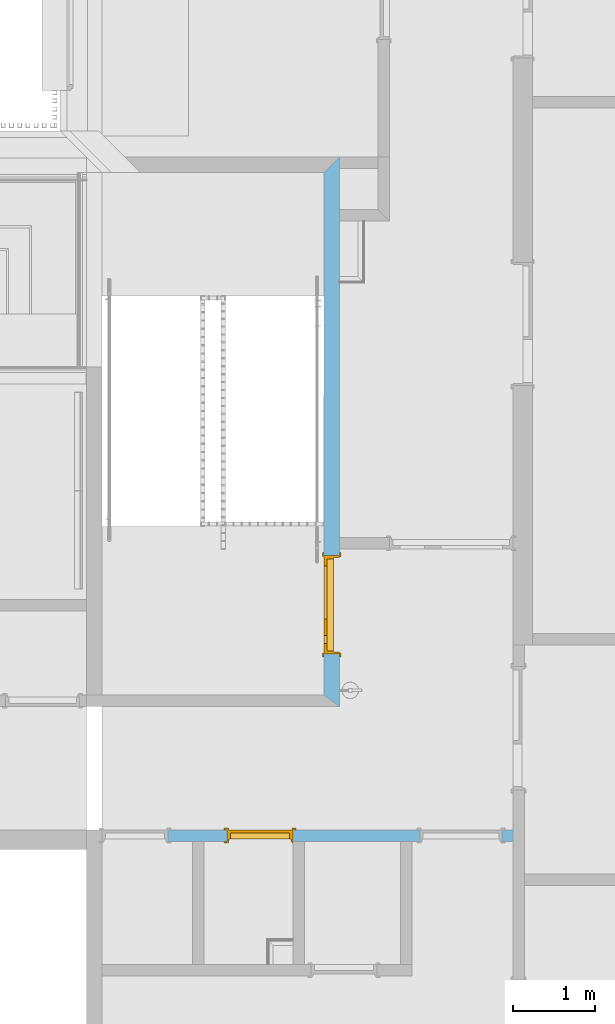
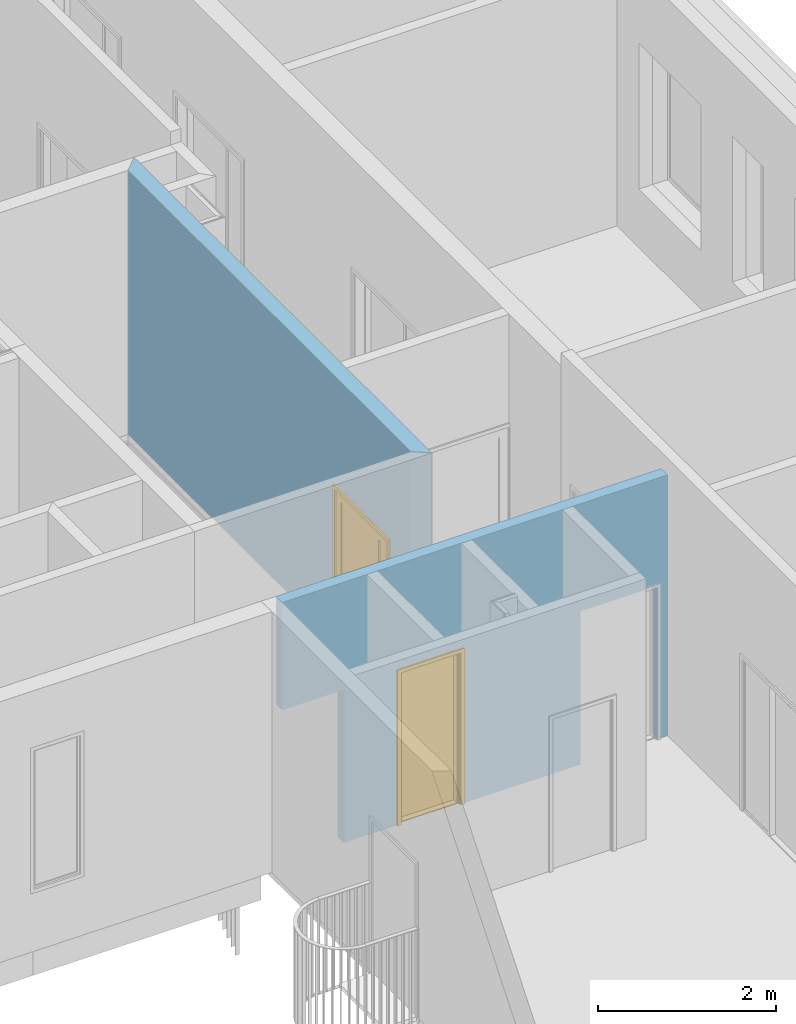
# One storey, part 56 of 100: 2 doors, 4 openings, plus 2 elements that do not belong to this part.
"""IFC2X3 building model written with IfcOpenShell, lengths in millimetres."""

import ifcopenshell
import ifcopenshell.guid

model = None  # the IFC model being written
_history = None  # IfcOwnerHistory: only IFC2X3 demands one
_inside = {}  # id of a spatial element -> (the spatial element, [elements in it])
_under = {}  # id of a project, library or spatial element -> (it, [spatial elements below it])
_declared = {}  # id of a project -> (the project, [libraries it declares])
_typed = {}  # id of a type object -> (the type object, [elements of that type])
_made_of = {}  # id of a material, layer set ... -> (it, [elements and type objects made of it])


def new_model(schema):
    """Start an empty IFC model of exactly this schema.

    Asked for "IFC4X3", IfcOpenShell would pick the latest addendum, in which some entities
    have other attributes; the version numbers below select the first issue.
    IFC2X3 requires an IfcOwnerHistory on every rooted entity: one is made here for all.
    """
    global model, _history
    if schema == "IFC4X3":
        model = ifcopenshell.file(schema_version=(4, 3, 0, 0))
    else:
        model = ifcopenshell.file(schema=schema)
    _inside.clear()
    _under.clear()
    _declared.clear()
    _typed.clear()
    _made_of.clear()
    _history = None
    if model.schema == "IFC2X3":
        org = make("IfcOrganization", Name="unknown")
        user = make(
            "IfcPersonAndOrganization",
            ThePerson=make("IfcPerson", FamilyName="unknown"),
            TheOrganization=org,
        )
        app = make(
            "IfcApplication",
            ApplicationDeveloper=org,
            Version="unknown",
            ApplicationFullName="unknown",
            ApplicationIdentifier="unknown",
        )
        _history = make(
            "IfcOwnerHistory",
            OwningUser=user,
            OwningApplication=app,
            ChangeAction="ADDED",
            CreationDate=0,
        )
    return model


def make(cls, **values):
    """One entity of the class cls with the attributes given. An attribute that is None is left unset."""
    return model.create_entity(
        cls, **{name: value for name, value in values.items() if value is not None}
    )


def entity(cls, *values):
    """Any entity or typed value of the class cls, its attributes in the order of the schema. None: left unset."""
    e = model.create_entity(cls)
    for i, value in enumerate(values):
        if value is not None:
            e[i] = value
    return e


def rooted(cls, **values):
    """An entity with a GlobalId (a new one), such as an element, a storey or a relation."""
    return make(cls, GlobalId=ifcopenshell.guid.new(), OwnerHistory=_history, **values)


def si_unit(unit_type, name, prefix=None):
    """IfcSIUnit, for example si_unit("LENGTHUNIT", "METRE", prefix="MILLI")."""
    return make("IfcSIUnit", UnitType=unit_type, Prefix=prefix, Name=name)


def converted_unit(unit_type, name, factor, base, dimensions=None, offset=None):
    """IfcConversionBasedUnit, such as the inch: factor (a typed value) times the base unit."""
    return make(
        "IfcConversionBasedUnit"
        if offset is None
        else "IfcConversionBasedUnitWithOffset",
        ConversionOffset=offset,
        Dimensions=None
        if dimensions is None
        else entity("IfcDimensionalExponents", *dimensions),
        UnitType=unit_type,
        Name=name,
        ConversionFactor=make(
            "IfcMeasureWithUnit", ValueComponent=factor, UnitComponent=base
        ),
    )


def derived_unit(unit_type, elements):
    """IfcDerivedUnit: a product of units, each with its exponent."""
    return make(
        "IfcDerivedUnit",
        Elements=[
            make("IfcDerivedUnitElement", Unit=unit, Exponent=power)
            for unit, power in elements
        ],
        UnitType=unit_type,
    )


def money_unit(currency):
    """IfcMonetaryUnit."""
    return make("IfcMonetaryUnit", Currency=currency)


def assignment(units):
    """IfcUnitAssignment: the units of a project."""
    return None if units is None else make("IfcUnitAssignment", Units=units)


def point(xyz):
    """IfcCartesianPoint."""
    return None if xyz is None else make("IfcCartesianPoint", Coordinates=xyz)


def direction(xyz):
    """IfcDirection."""
    return None if xyz is None else make("IfcDirection", DirectionRatios=xyz)


def frame(location, z_axis=None, x_axis=None):
    """IfcAxis2Placement3D, a coordinate frame: its origin and axes. An axis left out is left unset."""
    return make(
        "IfcAxis2Placement3D",
        Location=point(location),
        Axis=direction(z_axis),
        RefDirection=direction(x_axis),
    )


def frame_2d(location, x_axis=None):
    """IfcAxis2Placement2D, a coordinate frame in the plane: its origin and x axis."""
    return make(
        "IfcAxis2Placement2D", Location=point(location), RefDirection=direction(x_axis)
    )


def origin_with_axes():
    """The frame at (0, 0, 0) with the z axis (0, 0, 1) and the x axis (1, 0, 0) written out."""
    return frame((0.0, 0.0, 0.0), z_axis=(0.0, 0.0, 1.0), x_axis=(1.0, 0.0, 0.0))


def origin_2d_with_axis():
    """The frame at (0, 0) in the plane with the x axis (1, 0) written out."""
    return frame_2d((0.0, 0.0), x_axis=(1.0, 0.0))


def place(relative_to, where):
    """IfcLocalPlacement: puts the frame where relative to a parent placement (None: the world)."""
    return make(
        "IfcLocalPlacement", PlacementRelTo=relative_to, RelativePlacement=where
    )


def context(
    kind, dimensions, precision=None, world=None, true_north=None, identifier=None
):
    """IfcGeometricRepresentationContext, for example the 3D "Model" context."""
    return make(
        "IfcGeometricRepresentationContext",
        ContextIdentifier=identifier,
        ContextType=kind,
        CoordinateSpaceDimension=dimensions,
        Precision=precision,
        WorldCoordinateSystem=world,
        TrueNorth=true_north,
    )


def subcontext(parent, identifier, kind, view, scale=None):
    """IfcGeometricRepresentationSubContext, for example "Body" below "Model"."""
    return make(
        "IfcGeometricRepresentationSubContext",
        ContextIdentifier=identifier,
        ContextType=kind,
        ParentContext=parent,
        TargetScale=scale,
        TargetView=view,
    )


def project(units=None, contexts=None):
    """IfcProject with its units and contexts."""
    return rooted(
        "IfcProject",
        Name="project",
        RepresentationContexts=contexts,
        UnitsInContext=assignment(units),
    )


def spatial(cls, under=None, at=None, **own):
    """A site, building, storey or space (cls), placed at a placement, below another one or the project."""
    s = rooted(cls, ObjectPlacement=at, **own)
    if under is not None:
        _under.setdefault(under.id(), (under, []))[1].append(s)
    return s


def polyline(points):
    """IfcPolyline through the points."""
    return make("IfcPolyline", Points=[point(p) for p in points])


def profile(cls, at=None, kind="AREA", **sizes):
    """A parametric profile (cls). Its sizes go by their IFC names, for example OverallWidth=200.0."""
    return make(cls, ProfileType=kind, Position=at, **sizes)


def rectangle(**sizes):
    """IfcRectangleProfileDef."""
    return profile("IfcRectangleProfileDef", **sizes)


def outline(outer, holes=None, kind="AREA"):
    """IfcArbitraryClosedProfileDef: a profile drawn as a closed curve; with holes, ...WithVoids."""
    if holes is None:
        return make("IfcArbitraryClosedProfileDef", ProfileType=kind, OuterCurve=outer)
    return make(
        "IfcArbitraryProfileDefWithVoids",
        ProfileType=kind,
        OuterCurve=outer,
        InnerCurves=holes,
    )


def extrude(swept, where, along, depth):
    """IfcExtrudedAreaSolid: the profile swept, set in the frame where, extruded along a direction by depth."""
    return make(
        "IfcExtrudedAreaSolid",
        SweptArea=swept,
        Position=where,
        ExtrudedDirection=direction(along),
        Depth=depth,
    )


def faces_of(points, faces, orient=None, outer=None):
    """IfcFace entities. A face is a list of loops; a loop is a list of indices into points, from 0.

    orient and outer hold one flag for each loop. By default every Orientation is true, the
    first loop of a face is its IfcFaceOuterBound and the others are IfcFaceBound.
    """
    made = []
    for i, loops in enumerate(faces):
        bounds = []
        for j, loop in enumerate(loops):
            is_outer = j == 0 if outer is None else outer[i][j]
            bounds.append(
                make(
                    "IfcFaceOuterBound" if is_outer else "IfcFaceBound",
                    Bound=make("IfcPolyLoop", Polygon=[points[k] for k in loop]),
                    Orientation=True if orient is None else orient[i][j],
                )
            )
        made.append(make("IfcFace", Bounds=bounds))
    return made


def open_shell(faces, orient=None, outer=None):
    """The faces of one IfcOpenShell. surface_model builds it on its shared points."""
    return ("IfcOpenShell", faces, orient, outer)


def faceted_brep(points, faces, orient=None, outer=None, voids=None):
    """IfcFacetedBrep: a solid bounded by flat faces; with voids (closed shells), ...WithVoids."""
    shared = [point(p) for p in points]
    hull = make("IfcClosedShell", CfsFaces=faces_of(shared, faces, orient, outer))
    if voids is None:
        return make("IfcFacetedBrep", Outer=hull)
    return make(
        "IfcFacetedBrepWithVoids",
        Outer=hull,
        Voids=[
            make(cls, CfsFaces=faces_of(shared, fs, o, b)) for cls, fs, o, b in voids
        ],
    )


def surface_model(cls, points, shells):
    """IfcFaceBasedSurfaceModel or IfcShellBasedSurfaceModel (cls): surfaces that need not close."""
    shared = [point(p) for p in points]
    made = [make(c, CfsFaces=faces_of(shared, fs, o, b)) for c, fs, o, b in shells]
    if cls == "IfcFaceBasedSurfaceModel":
        return make(cls, FbsmFaces=made)
    return make(cls, SbsmBoundary=made)


def shape(context_of_items, identifier, shape_type, items):
    """IfcShapeRepresentation: the items that make up one representation, for example the "Body"."""
    return make(
        "IfcShapeRepresentation",
        ContextOfItems=context_of_items,
        RepresentationIdentifier=identifier,
        RepresentationType=shape_type,
        Items=items,
    )


def material(Name=None, Category=None):
    """IfcMaterial."""
    return make("IfcMaterial", Name=Name, Category=Category)


def layer(
    of_material, thickness, ventilated=None, Name=None, Category=None, Priority=None
):
    """IfcMaterialLayer: one layer of a wall or slab, of a material (None: an air gap)."""
    return make(
        "IfcMaterialLayer",
        Material=of_material,
        LayerThickness=thickness,
        IsVentilated=ventilated,
        Name=Name,
        Category=Category,
        Priority=Priority,
    )


def layer_set(layers, Name=None):
    """IfcMaterialLayerSet."""
    return make("IfcMaterialLayerSet", MaterialLayers=layers, LayerSetName=Name)


def layer_usage(for_layer_set, set_direction, sense, offset, extent=None):
    """IfcMaterialLayerSetUsage: how a layer set lies in its element."""
    return make(
        "IfcMaterialLayerSetUsage",
        ForLayerSet=for_layer_set,
        LayerSetDirection=set_direction,
        DirectionSense=sense,
        OffsetFromReferenceLine=offset,
        ReferenceExtent=extent,
    )


def made_of(thing, what):
    """Note that an element or type object is made of a material, layer set ...; save() writes the relation."""
    if what is not None:
        _made_of.setdefault(what.id(), (what, []))[1].append(thing)
    return thing


def type_object(cls, material=None, **own):
    """A type object (cls), such as IfcWallType, which elements share."""
    return made_of(rooted(cls, **own), material)


def element(
    cls,
    number,
    at=None,
    inside=None,
    cuts=None,
    type_object=None,
    material=None,
    context=None,
    identifier="Body",
    shape_type=None,
    held_by="IfcProductDefinitionShape",
    body=None,
    shapes=None,
    **own,
):
    """One element of the class cls, such as IfcWall. Its Tag is "e" and its number.

    at: its placement. inside: the storey or other place that contains it. cuts: it is an
    opening in that element (IfcRelVoidsElement). A single representation is given by context,
    identifier, shape_type and body (its items); several are given by shapes. held_by: the class
    of the entity that holds the representations. save() writes the other relations.
    """
    e = rooted(cls, Tag="e%d" % number, ObjectPlacement=at, **own)
    if body is not None:
        shapes = [shape(context, identifier, shape_type, body)]
    if shapes is not None:
        e.Representation = make(held_by, Representations=shapes)
    if inside is not None:
        _inside.setdefault(inside.id(), (inside, []))[1].append(e)
    if cuts is not None:
        rooted(
            "IfcRelVoidsElement", RelatingBuildingElement=cuts, RelatedOpeningElement=e
        )
    if type_object is not None:
        _typed.setdefault(type_object.id(), (type_object, []))[1].append(e)
    return made_of(e, material)


def fill(opening, filler):
    """IfcRelFillsElement: the door or window that sits in an opening."""
    return rooted(
        "IfcRelFillsElement",
        RelatingOpeningElement=opening,
        RelatedBuildingElement=filler,
    )


def aggregate(whole, parts):
    """IfcRelAggregates: a whole, such as a stair, and the parts it consists of."""
    return rooted("IfcRelAggregates", RelatingObject=whole, RelatedObjects=parts)


def save(model, path):
    """Write the relations noted so far, then the file.

    IfcRelAggregates (storeys below a building ...), IfcRelContainedInSpatialStructure (elements
    in a storey), IfcRelDefinesByType, IfcRelAssociatesMaterial and IfcRelDeclares: one each for
    every whole, place, type object, material and project.
    """
    for whole, parts in _under.values():
        aggregate(whole, parts)
    for where, things in _inside.values():
        rooted(
            "IfcRelContainedInSpatialStructure",
            RelatedElements=things,
            RelatingStructure=where,
        )
    for kind, things in _typed.values():
        rooted("IfcRelDefinesByType", RelatedObjects=things, RelatingType=kind)
    for what, things in _made_of.values():
        rooted("IfcRelAssociatesMaterial", RelatedObjects=things, RelatingMaterial=what)
    for by, libraries in _declared.values():
        rooted("IfcRelDeclares", RelatingContext=by, RelatedDefinitions=libraries)
    model.write(path)


model = new_model("IFC2X3")

# Units and contexts
model_context = context("Model", 3, precision=0.01, world=origin_with_axes(), true_north=direction((0.0, 1.0)))
body_context = subcontext(model_context, "Body", "Model", "MODEL_VIEW")
ifc_project = project(units=[si_unit("LENGTHUNIT", "METRE", prefix="MILLI"), si_unit("AREAUNIT", "SQUARE_METRE"), si_unit("VOLUMEUNIT", "CUBIC_METRE"), converted_unit("PLANEANGLEUNIT", "DEGREE", entity("IfcPlaneAngleMeasure", 0.0174532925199), si_unit("PLANEANGLEUNIT", "RADIAN"), dimensions=[0, 0, 0, 0, 0, 0, 0]), si_unit("SOLIDANGLEUNIT", "STERADIAN"), money_unit("EUR"), converted_unit("TIMEUNIT", "Year", entity("IfcTimeMeasure", 31556926.0), si_unit("TIMEUNIT", "SECOND"), dimensions=[0, 0, 1, 0, 0, 0, 0]), si_unit("MASSUNIT", "GRAM", prefix="KILO"), si_unit("THERMODYNAMICTEMPERATUREUNIT", "DEGREE_CELSIUS"), si_unit("LUMINOUSINTENSITYUNIT", "LUMEN"), si_unit("ENERGYUNIT", "JOULE", prefix="MEGA"), derived_unit("THERMALCONDUCTANCEUNIT", [(si_unit("POWERUNIT", "WATT"), 1), (si_unit("LENGTHUNIT", "METRE"), -1), (si_unit("THERMODYNAMICTEMPERATUREUNIT", "KELVIN"), -1)]), derived_unit("SPECIFICHEATCAPACITYUNIT", [(si_unit("ENERGYUNIT", "JOULE"), 1), (si_unit("MASSUNIT", "GRAM", prefix="KILO"), -1), (si_unit("THERMODYNAMICTEMPERATUREUNIT", "KELVIN"), -1)]), derived_unit("MASSDENSITYUNIT", [(si_unit("MASSUNIT", "GRAM", prefix="KILO"), 1), (si_unit("VOLUMEUNIT", "CUBIC_METRE"), -1)])], contexts=[model_context])

# Site, building, storey
site_placement = place(None, origin_with_axes())
site = spatial("IfcSite", under=ifc_project, at=site_placement, Name="Politse- ja Piirivalveameti ning Päästeameti ühishoone", CompositionType="ELEMENT")
building_placement = place(site_placement, origin_with_axes())
building = spatial("IfcBuilding", under=site, at=building_placement, Name="Politse- ja Piirivalveameti ning Päästeameti ühishoone", CompositionType="ELEMENT")
storey_placement = place(building_placement, frame((0.0, 0.0, 3800.0), z_axis=(0.0, 0.0, 1.0), x_axis=(1.0, 0.0, 0.0)))
storey = spatial("IfcBuildingStorey", under=building, at=storey_placement, Name="Teine korrus", CompositionType="ELEMENT", Elevation=3800.0)

# Wall, opening, door
ifc_material = material(Name="KON-05_Betoon Plokk - Konstuktsioon")
ifc_layer_1 = layer(ifc_material, 190.0, ventilated="UNKNOWN")
ifc_layer_set_1 = layer_set([ifc_layer_1], Name="SS-03_Sisesein 190")
ifc_layer_usage_1 = layer_usage(ifc_layer_set_1, "AXIS2", "POSITIVE", 0.0)
wall_type_1 = type_object("IfcWallType", Name="SS-03_Sisesein 190 190", PredefinedType="NOTDEFINED")
wall_1_placement = place(storey_placement, frame((63050.557259, 14500.0421528, 0.0), z_axis=(0.0, 0.0, 1.0), x_axis=(0.0, 1.0, 0.0)))
wall_1 = element("IfcWallStandardCase", 1, at=wall_1_placement, inside=storey, type_object=wall_type_1, material=ifc_layer_usage_1, Name="SS-03", context=body_context, shape_type="SweptSolid", body=[
    extrude(outline(polyline([(0.0, 0.0), (6689.9099304, 0.0), (6499.9099304, 190.0), (140.0, 190.0), (0.0, 0.0)])), origin_with_axes(), (0.0, 0.0, 1.0), 3620.0),
])
opening_1_placement = place(wall_1_placement, frame((1238.63263105, 0.0, 0.0), z_axis=(0.0, 0.0, 1.0), x_axis=(1.0, 0.0, 0.0)))
opening_1 = element("IfcOpeningElement", 2, at=opening_1_placement, cuts=wall_1, Name="TU-01-4", context=body_context, shape_type="SweptSolid", body=[
    extrude(rectangle(XDim=1200.0, YDim=2100.0, at=origin_2d_with_axis()), frame((0.0, -190.0, 1050.0), z_axis=(0.0, -1.0, 0.0), x_axis=(-1.0, 0.0, 0.0)), (0.0, 0.0, -1.0), 570.0),
    extrude(rectangle(XDim=1274.0, YDim=2137.0, at=origin_2d_with_axis()), frame((0.0, 0.0, 1068.5), z_axis=(0.0, -1.0, 0.0), x_axis=(-1.0, 0.0, 0.0)), (0.0, 0.0, 1.0), 190.0),
    extrude(rectangle(XDim=1274.0, YDim=2137.0, at=origin_2d_with_axis()), frame((0.0, 190.0, 1068.5), z_axis=(0.0, 1.0, 0.0), x_axis=(-1.0, 0.0, 0.0)), (0.0, 0.0, 1.0), 190.0),
])
door_style_1 = type_object("IfcDoorStyle", Name="Double Door Asymmetric 23", ConstructionType="NOTDEFINED", OperationType="DOUBLE_DOOR_SINGLE_SWING", ParameterTakesPrecedence=False, Sizeable=False)
door_1_placement = place(opening_1_placement, frame((-600.0, 0.0, 0.0), z_axis=(0.0, 0.0, 1.0), x_axis=(1.0, 0.0, 0.0)))
door_1 = element("IfcDoor", 3, at=door_1_placement, inside=storey, type_object=door_style_1, Name="TU-01-4", ObjectType="DOOR", OverallHeight=2100.0, OverallWidth=1200.0, context=body_context, shape_type="SurfaceModel", body=[
    faceted_brep([(28.0, 150.0, 0.0), (40.0, 150.0, 0.0), (40.0, 150.0, 12.0), (28.0, 150.0, 12.0), (1172.0, 150.0, 0.0), (1160.0, 150.0, 0.0), (1160.0, 75.0, 0.0), (40.0, 75.0, 0.0), (40.0, 75.0, 12.0), (1160.0, 75.0, 12.0), (1160.0, 150.0, 12.0), (1172.0, 150.0, 12.0)], [[[0, 1, 2, 3]], [[0, 4, 5, 6, 7, 1]], [[1, 7, 8, 2]], [[3, 2, 8, 9, 10, 11]], [[4, 0, 3, 11]], [[5, 4, 11, 10]], [[6, 5, 10, 9]], [[7, 6, 9, 8]]]),
    faceted_brep([(1200.0, 75.0, 0.0), (1200.0, 0.0, 0.0), (1175.0, 0.0, 0.0), (1175.0, 75.0, 0.0), (1200.0, 75.0, 2100.0), (1200.0, 0.0, 2100.0), (1175.0, 0.0, 2075.0), (1175.0, 75.0, 2075.0)], [[[0, 1, 2, 3]], [[4, 5, 1, 0]], [[1, 5, 6, 2]], [[3, 2, 6, 7]], [[0, 3, 7, 4]], [[7, 6, 5, 4]]]),
    faceted_brep([(0.0, 75.0, 2100.0), (0.0, 0.0, 2100.0), (25.0, 0.0, 2075.0), (25.0, 75.0, 2075.0), (0.0, 75.0, 0.0), (0.0, 0.0, 0.0), (25.0, 0.0, 0.0), (25.0, 75.0, 0.0)], [[[0, 1, 2, 3]], [[4, 5, 1, 0]], [[1, 5, 6, 2]], [[3, 2, 6, 7]], [[0, 3, 7, 4]], [[7, 6, 5, 4]]]),
    faceted_brep([(1175.0, 75.0, 2075.0), (1175.0, 0.0, 2075.0), (25.0, 0.0, 2075.0), (25.0, 75.0, 2075.0), (1200.0, 75.0, 2100.0), (1200.0, 0.0, 2100.0), (0.0, 0.0, 2100.0), (0.0, 75.0, 2100.0)], [[[0, 1, 2, 3]], [[4, 5, 1, 0]], [[1, 5, 6, 2]], [[3, 2, 6, 7]], [[0, 3, 7, 4]], [[7, 6, 5, 4]]]),
    faceted_brep([(1237.0, -19.0, 0.0), (1187.0, -19.0, 0.0), (1187.0, 0.0, 0.0), (1237.0, 0.0, 0.0), (1237.0, -19.0, 2137.0), (1187.0, -19.0, 2087.0), (1187.0, 0.0, 2087.0), (1237.0, 0.0, 2137.0)], [[[0, 1, 2, 3]], [[0, 4, 5, 1]], [[1, 5, 6, 2]], [[3, 2, 6, 7]], [[4, 0, 3, 7]], [[5, 4, 7, 6]]]),
    faceted_brep([(-37.0, -19.0, 2137.0), (13.0, -19.0, 2087.0), (13.0, 0.0, 2087.0), (-37.0, 0.0, 2137.0), (-37.0, -19.0, 0.0), (13.0, -19.0, 0.0), (13.0, 0.0, 0.0), (-37.0, 0.0, 0.0)], [[[0, 1, 2, 3]], [[0, 4, 5, 1]], [[1, 5, 6, 2]], [[3, 2, 6, 7]], [[4, 0, 3, 7]], [[5, 4, 7, 6]]]),
    faceted_brep([(1237.0, -19.0, 2137.0), (1187.0, -19.0, 2087.0), (1187.0, 0.0, 2087.0), (1237.0, 0.0, 2137.0), (-37.0, -19.0, 2137.0), (13.0, -19.0, 2087.0), (13.0, 0.0, 2087.0), (-37.0, 0.0, 2137.0)], [[[0, 1, 2, 3]], [[0, 4, 5, 1]], [[1, 5, 6, 2]], [[3, 2, 6, 7]], [[4, 0, 3, 7]], [[5, 4, 7, 6]]]),
    faceted_brep([(1237.0, 209.0, 0.0), (1237.0, 190.0, 0.0), (1187.0, 190.0, 0.0), (1187.0, 209.0, 0.0), (1237.0, 209.0, 2137.0), (1237.0, 190.0, 2137.0), (1187.0, 190.0, 2087.0), (1187.0, 209.0, 2087.0)], [[[0, 1, 2, 3]], [[4, 5, 1, 0]], [[1, 5, 6, 2]], [[3, 2, 6, 7]], [[0, 3, 7, 4]], [[7, 6, 5, 4]]]),
    faceted_brep([(-37.0, 209.0, 2137.0), (-37.0, 190.0, 2137.0), (13.0, 190.0, 2087.0), (13.0, 209.0, 2087.0), (-37.0, 209.0, 0.0), (-37.0, 190.0, 0.0), (13.0, 190.0, 0.0), (13.0, 209.0, 0.0)], [[[0, 1, 2, 3]], [[4, 5, 1, 0]], [[1, 5, 6, 2]], [[3, 2, 6, 7]], [[0, 3, 7, 4]], [[7, 6, 5, 4]]]),
    faceted_brep([(1237.0, 209.0, 2137.0), (1237.0, 190.0, 2137.0), (1187.0, 190.0, 2087.0), (1187.0, 209.0, 2087.0), (-37.0, 209.0, 2137.0), (-37.0, 190.0, 2137.0), (13.0, 190.0, 2087.0), (13.0, 209.0, 2087.0)], [[[0, 1, 2, 3]], [[4, 5, 1, 0]], [[1, 5, 6, 2]], [[3, 2, 6, 7]], [[0, 3, 7, 4]], [[7, 6, 5, 4]]]),
    faceted_brep([(1160.0, 150.0, 0.0), (1160.0, 75.0, 0.0), (1160.0, 75.0, 2060.0), (1160.0, 150.0, 2060.0), (1172.0, 150.0, 0.0), (1172.0, 190.0, 0.0), (1200.0, 190.0, 0.0), (1200.0, 75.0, 0.0), (1200.0, 75.0, 2060.0), (1172.0, 150.0, 2060.0), (1200.0, 190.0, 2060.0), (1172.0, 190.0, 2060.0)], [[[0, 1, 2, 3]], [[4, 5, 6, 7, 1, 0]], [[1, 7, 8, 2]], [[9, 3, 2, 8, 10, 11]], [[9, 4, 0, 3]], [[11, 5, 4, 9]], [[11, 10, 6, 5]], [[6, 10, 8, 7]]]),
    faceted_brep([(28.0, 150.0, 2060.0), (28.0, 190.0, 2060.0), (0.0, 190.0, 2060.0), (0.0, 75.0, 2060.0), (40.0, 75.0, 2060.0), (40.0, 150.0, 2060.0), (28.0, 150.0, 0.0), (28.0, 190.0, 0.0), (0.0, 190.0, 0.0), (0.0, 75.0, 0.0), (40.0, 75.0, 0.0), (40.0, 150.0, 0.0)], [[[0, 1, 2, 3, 4, 5]], [[0, 6, 7, 1]], [[7, 8, 2, 1]], [[2, 8, 9, 3]], [[3, 9, 10, 4]], [[5, 4, 10, 11]], [[5, 11, 6, 0]], [[6, 11, 10, 9, 8, 7]]]),
    faceted_brep([(1172.0, 190.0, 2072.0), (28.0, 190.0, 2072.0), (28.0, 190.0, 2060.0), (0.0, 190.0, 2060.0), (0.0, 190.0, 2100.0), (1200.0, 190.0, 2100.0), (1200.0, 190.0, 2060.0), (1172.0, 190.0, 2060.0), (1172.0, 150.0, 2072.0), (28.0, 150.0, 2072.0), (28.0, 150.0, 2060.0), (40.0, 150.0, 2060.0), (40.0, 75.0, 2060.0), (0.0, 75.0, 2060.0), (0.0, 75.0, 2100.0), (1200.0, 75.0, 2100.0), (1200.0, 75.0, 2060.0), (1172.0, 150.0, 2060.0), (1160.0, 75.0, 2060.0), (1160.0, 150.0, 2060.0)], [[[0, 1, 2, 3, 4, 5, 6, 7]], [[0, 8, 9, 1]], [[1, 9, 10, 2]], [[10, 11, 12, 13, 3, 2]], [[4, 3, 13, 14]], [[5, 4, 14, 15]], [[6, 5, 15, 16]], [[17, 7, 6, 16, 18, 19]], [[7, 17, 8, 0]], [[10, 9, 8, 17, 19, 11]], [[19, 18, 12, 11]], [[12, 18, 16, 15, 14, 13]]]),
    faceted_brep([(28.0, 190.0, 200.0), (128.0, 190.0, 200.0), (128.0, 150.0, 200.0), (28.0, 150.0, 200.0), (28.0, 190.0, 1972.0), (128.0, 190.0, 1972.0), (128.0, 150.0, 1972.0), (28.0, 150.0, 1972.0)], [[[0, 1, 2, 3]], [[0, 4, 5, 1]], [[1, 5, 6, 2]], [[3, 2, 6, 7]], [[4, 0, 3, 7]], [[5, 4, 7, 6]]]),
    faceted_brep([(328.0, 190.0, 200.0), (328.0, 190.0, 1972.0), (328.0, 150.0, 1972.0), (328.0, 150.0, 200.0), (228.0, 190.0, 200.0), (228.0, 190.0, 1972.0), (228.0, 150.0, 1972.0), (228.0, 150.0, 200.0)], [[[0, 1, 2, 3]], [[0, 4, 5, 1]], [[1, 5, 6, 2]], [[3, 2, 6, 7]], [[4, 0, 3, 7]], [[5, 4, 7, 6]]]),
    faceted_brep([(28.0, 190.0, 0.0), (328.0, 190.0, 0.0), (328.0, 150.0, 0.0), (28.0, 150.0, 0.0), (28.0, 190.0, 200.0), (128.0, 190.0, 200.0), (228.0, 190.0, 200.0), (328.0, 190.0, 200.0), (328.0, 150.0, 200.0), (228.0, 150.0, 200.0), (128.0, 150.0, 200.0), (28.0, 150.0, 200.0)], [[[0, 1, 2, 3]], [[0, 4, 5, 6, 7, 1]], [[1, 7, 8, 2]], [[3, 2, 8, 9, 10, 11]], [[4, 0, 3, 11]], [[5, 4, 11, 10]], [[6, 5, 10, 9]], [[7, 6, 9, 8]]]),
    faceted_brep([(28.0, 190.0, 2072.0), (28.0, 190.0, 1972.0), (28.0, 150.0, 1972.0), (28.0, 150.0, 2072.0), (328.0, 190.0, 2072.0), (328.0, 190.0, 1972.0), (228.0, 190.0, 1972.0), (128.0, 190.0, 1972.0), (128.0, 150.0, 1972.0), (228.0, 150.0, 1972.0), (328.0, 150.0, 1972.0), (328.0, 150.0, 2072.0)], [[[0, 1, 2, 3]], [[0, 4, 5, 6, 7, 1]], [[1, 7, 8, 2]], [[3, 2, 8, 9, 10, 11]], [[4, 0, 3, 11]], [[5, 4, 11, 10]], [[6, 5, 10, 9]], [[7, 6, 9, 8]]]),
    surface_model("IfcShellBasedSurfaceModel", [(128.0, 176.0, 200.0), (128.0, 176.0, 1972.0), (228.0, 176.0, 1972.0), (228.0, 176.0, 200.0)], [open_shell([[[0, 1, 2, 3]]])]),
    surface_model("IfcShellBasedSurfaceModel", [(128.0, 164.0, 200.0), (228.0, 164.0, 200.0), (228.0, 164.0, 1972.0), (128.0, 164.0, 1972.0)], [open_shell([[[0, 1, 2, 3]]])]),
    faceted_brep([(1172.0, 190.0, 200.0), (1172.0, 150.0, 200.0), (1072.0, 150.0, 200.0), (1072.0, 190.0, 200.0), (1172.0, 190.0, 1972.0), (1172.0, 150.0, 1972.0), (1072.0, 150.0, 1972.0), (1072.0, 190.0, 1972.0)], [[[0, 1, 2, 3]], [[4, 5, 1, 0]], [[1, 5, 6, 2]], [[3, 2, 6, 7]], [[0, 3, 7, 4]], [[7, 6, 5, 4]]]),
    faceted_brep([(328.0, 190.0, 200.0), (328.0, 150.0, 200.0), (328.0, 150.0, 1972.0), (328.0, 190.0, 1972.0), (428.0, 190.0, 200.0), (428.0, 150.0, 200.0), (428.0, 150.0, 1972.0), (428.0, 190.0, 1972.0)], [[[0, 1, 2, 3]], [[4, 5, 1, 0]], [[1, 5, 6, 2]], [[3, 2, 6, 7]], [[0, 3, 7, 4]], [[7, 6, 5, 4]]]),
    faceted_brep([(1172.0, 190.0, 0.0), (1172.0, 150.0, 0.0), (328.0, 150.0, 0.0), (328.0, 190.0, 0.0), (1172.0, 190.0, 200.0), (1172.0, 150.0, 200.0), (1072.0, 150.0, 200.0), (428.0, 150.0, 200.0), (328.0, 150.0, 200.0), (328.0, 190.0, 200.0), (428.0, 190.0, 200.0), (1072.0, 190.0, 200.0)], [[[0, 1, 2, 3]], [[4, 5, 1, 0]], [[1, 5, 6, 7, 8, 2]], [[3, 2, 8, 9]], [[0, 3, 9, 10, 11, 4]], [[11, 6, 5, 4]], [[10, 7, 6, 11]], [[9, 8, 7, 10]]]),
    faceted_brep([(1172.0, 190.0, 2072.0), (1172.0, 150.0, 2072.0), (1172.0, 150.0, 1972.0), (1172.0, 190.0, 1972.0), (328.0, 190.0, 2072.0), (328.0, 150.0, 2072.0), (328.0, 150.0, 1972.0), (428.0, 150.0, 1972.0), (1072.0, 150.0, 1972.0), (1072.0, 190.0, 1972.0), (428.0, 190.0, 1972.0), (328.0, 190.0, 1972.0)], [[[0, 1, 2, 3]], [[4, 5, 1, 0]], [[1, 5, 6, 7, 8, 2]], [[3, 2, 8, 9]], [[0, 3, 9, 10, 11, 4]], [[11, 6, 5, 4]], [[10, 7, 6, 11]], [[9, 8, 7, 10]]]),
    surface_model("IfcShellBasedSurfaceModel", [(1072.0, 176.0, 200.0), (428.0, 176.0, 200.0), (428.0, 176.0, 1972.0), (1072.0, 176.0, 1972.0)], [open_shell([[[0, 1, 2, 3]]])]),
    surface_model("IfcShellBasedSurfaceModel", [(1072.0, 164.0, 200.0), (1072.0, 164.0, 1972.0), (428.0, 164.0, 1972.0), (428.0, 164.0, 200.0)], [open_shell([[[0, 1, 2, 3]]])]),
])
fill(opening_1, door_1)

# Wall, openings, door
ifc_layer_2 = layer(ifc_material, 140.0, ventilated="UNKNOWN")
ifc_layer_set_2 = layer_set([ifc_layer_2], Name="SS-02_Sisesein 140")
ifc_layer_usage_2 = layer_usage(ifc_layer_set_2, "AXIS2", "NEGATIVE", 0.0)
wall_type_2 = type_object("IfcWallType", Name="SS-02_Sisesein 140 140", PredefinedType="NOTDEFINED")
wall_2_placement = place(storey_placement, frame((60160.5519118, 13000.0198611, 0.0), z_axis=(0.0, 0.0, 1.0), x_axis=(1.0, 0.0, 0.0)))
wall_2 = element("IfcWallStandardCase", 4, at=wall_2_placement, inside=storey, type_object=wall_type_2, material=ifc_layer_usage_2, Name="SS-02", context=body_context, shape_type="SweptSolid", body=[
    extrude(outline(polyline([(0.0, -140.0), (5000.00763889, -140.0), (5000.00763889, 0.0), (0.0, 0.0), (0.0, -140.0)])), origin_with_axes(), (0.0, 0.0, 1.0), 3575.0),
])
opening_2_placement = place(wall_2_placement, frame((400.0, 0.0, 0.0), z_axis=(0.0, 0.0, 1.0), x_axis=(1.0, 0.0, 0.0)))
element("IfcOpeningElement", 5, at=opening_2_placement, cuts=wall_2, Name="SU-02-1", context=body_context, shape_type="SweptSolid", body=[
    extrude(rectangle(XDim=800.0, YDim=2100.0, at=origin_2d_with_axis()), frame((0.0, -140.0, 1050.0), z_axis=(0.0, -1.0, 0.0), x_axis=(-1.0, 0.0, 0.0)), (0.0, 0.0, -1.0), 420.0),
    extrude(rectangle(XDim=874.0, YDim=2137.0, at=origin_2d_with_axis()), frame((0.0, -140.0, 1068.5), z_axis=(0.0, -1.0, 0.0), x_axis=(-1.0, 0.0, 0.0)), (0.0, 0.0, 1.0), 140.0),
    extrude(rectangle(XDim=874.0, YDim=2137.0, at=origin_2d_with_axis()), frame((0.0, 0.0, 1068.5), z_axis=(0.0, 1.0, 0.0), x_axis=(-1.0, 0.0, 0.0)), (0.0, 0.0, 1.0), 140.0),
])
opening_3_placement = place(wall_2_placement, frame((1922.69616775, 0.0, 0.0), z_axis=(0.0, 0.0, 1.0), x_axis=(1.0, 0.0, 0.0)))
opening_3 = element("IfcOpeningElement", 6, at=opening_3_placement, cuts=wall_2, Name="SU-02-1", context=body_context, shape_type="SweptSolid", body=[
    extrude(rectangle(XDim=800.0, YDim=2100.0, at=origin_2d_with_axis()), frame((0.0, -140.0, 1050.0), z_axis=(0.0, 1.0, 0.0), x_axis=(1.0, 0.0, 0.0)), (0.0, 0.0, 1.0), 420.0),
    extrude(rectangle(XDim=874.0, YDim=2137.0, at=origin_2d_with_axis()), frame((0.0, -140.0, 1068.5), z_axis=(0.0, 1.0, 0.0), x_axis=(1.0, 0.0, 0.0)), (0.0, 0.0, -1.0), 140.0),
    extrude(rectangle(XDim=874.0, YDim=2137.0, at=origin_2d_with_axis()), frame((0.0, 0.0, 1068.5), z_axis=(0.0, -1.0, 0.0), x_axis=(1.0, 0.0, 0.0)), (0.0, 0.0, -1.0), 140.0),
])
opening_4_placement = place(wall_2_placement, frame((4369.77329155, 0.0, 0.0), z_axis=(0.0, 0.0, 1.0), x_axis=(1.0, 0.0, 0.0)))
element("IfcOpeningElement", 7, at=opening_4_placement, cuts=wall_2, Name="SU-02-3", context=body_context, shape_type="SweptSolid", body=[
    extrude(rectangle(XDim=1000.0, YDim=2100.0, at=origin_2d_with_axis()), frame((0.0, -140.0, 1050.0), z_axis=(0.0, 1.0, 0.0), x_axis=(1.0, 0.0, 0.0)), (0.0, 0.0, 1.0), 420.0),
    extrude(rectangle(XDim=1074.0, YDim=2137.0, at=origin_2d_with_axis()), frame((0.0, -140.0, 1068.5), z_axis=(0.0, 1.0, 0.0), x_axis=(1.0, 0.0, 0.0)), (0.0, 0.0, -1.0), 140.0),
    extrude(rectangle(XDim=1074.0, YDim=2137.0, at=origin_2d_with_axis()), frame((0.0, 0.0, 1068.5), z_axis=(0.0, -1.0, 0.0), x_axis=(1.0, 0.0, 0.0)), (0.0, 0.0, -1.0), 140.0),
])
door_style_2 = type_object("IfcDoorStyle", Name="Door 23", ConstructionType="NOTDEFINED", OperationType="SINGLE_SWING_RIGHT", ParameterTakesPrecedence=False, Sizeable=False)
door_2_placement = place(opening_3_placement, frame((-400.0, 0.0, 0.0), z_axis=(0.0, 0.0, 1.0), x_axis=(1.0, 0.0, 0.0)))
door_2 = element("IfcDoor", 8, at=door_2_placement, inside=storey, type_object=door_style_2, Name="SU-02-1", ObjectType="DOOR", OverallHeight=2100.0, OverallWidth=800.0, context=body_context, shape_type="Brep", body=[
    faceted_brep([(772.0, -40.0, 0.0), (772.0, -40.0, 12.0), (760.0, -40.0, 12.0), (760.0, -40.0, 0.0), (28.0, -40.0, 0.0), (28.0, -40.0, 12.0), (40.0, -40.0, 12.0), (40.0, -115.0, 12.0), (760.0, -115.0, 12.0), (760.0, -115.0, 0.0), (40.0, -115.0, 0.0), (40.0, -40.0, 0.0)], [[[0, 1, 2, 3]], [[4, 5, 1, 0]], [[1, 5, 6, 7, 8, 2]], [[3, 2, 8, 9]], [[0, 3, 9, 10, 11, 4]], [[11, 6, 5, 4]], [[10, 7, 6, 11]], [[9, 8, 7, 10]]]),
    faceted_brep([(0.0, -115.0, 0.0), (25.0, -115.0, 0.0), (25.0, -140.0, 0.0), (0.0, -140.0, 0.0), (0.0, -115.0, 2100.0), (25.0, -115.0, 2075.0), (25.0, -140.0, 2075.0), (0.0, -140.0, 2100.0)], [[[0, 1, 2, 3]], [[0, 4, 5, 1]], [[1, 5, 6, 2]], [[3, 2, 6, 7]], [[4, 0, 3, 7]], [[5, 4, 7, 6]]]),
    faceted_brep([(800.0, -115.0, 2100.0), (775.0, -115.0, 2075.0), (775.0, -140.0, 2075.0), (800.0, -140.0, 2100.0), (800.0, -115.0, 0.0), (775.0, -115.0, 0.0), (775.0, -140.0, 0.0), (800.0, -140.0, 0.0)], [[[0, 1, 2, 3]], [[0, 4, 5, 1]], [[1, 5, 6, 2]], [[3, 2, 6, 7]], [[4, 0, 3, 7]], [[5, 4, 7, 6]]]),
    faceted_brep([(25.0, -115.0, 2075.0), (775.0, -115.0, 2075.0), (775.0, -140.0, 2075.0), (25.0, -140.0, 2075.0), (0.0, -115.0, 2100.0), (800.0, -115.0, 2100.0), (800.0, -140.0, 2100.0), (0.0, -140.0, 2100.0)], [[[0, 1, 2, 3]], [[0, 4, 5, 1]], [[1, 5, 6, 2]], [[3, 2, 6, 7]], [[4, 0, 3, 7]], [[5, 4, 7, 6]]]),
    faceted_brep([(-37.0, -159.0, 0.0), (-37.0, -140.0, 0.0), (13.0, -140.0, 0.0), (13.0, -159.0, 0.0), (-37.0, -159.0, 2137.0), (-37.0, -140.0, 2137.0), (13.0, -140.0, 2087.0), (13.0, -159.0, 2087.0)], [[[0, 1, 2, 3]], [[4, 5, 1, 0]], [[1, 5, 6, 2]], [[3, 2, 6, 7]], [[0, 3, 7, 4]], [[7, 6, 5, 4]]]),
    faceted_brep([(837.0, -159.0, 2137.0), (837.0, -140.0, 2137.0), (787.0, -140.0, 2087.0), (787.0, -159.0, 2087.0), (837.0, -159.0, 0.0), (837.0, -140.0, 0.0), (787.0, -140.0, 0.0), (787.0, -159.0, 0.0)], [[[0, 1, 2, 3]], [[4, 5, 1, 0]], [[1, 5, 6, 2]], [[3, 2, 6, 7]], [[0, 3, 7, 4]], [[7, 6, 5, 4]]]),
    faceted_brep([(-37.0, -159.0, 2137.0), (-37.0, -140.0, 2137.0), (13.0, -140.0, 2087.0), (13.0, -159.0, 2087.0), (837.0, -159.0, 2137.0), (837.0, -140.0, 2137.0), (787.0, -140.0, 2087.0), (787.0, -159.0, 2087.0)], [[[0, 1, 2, 3]], [[4, 5, 1, 0]], [[1, 5, 6, 2]], [[3, 2, 6, 7]], [[0, 3, 7, 4]], [[7, 6, 5, 4]]]),
    faceted_brep([(-37.0, 19.0, 0.0), (13.0, 19.0, 0.0), (13.0, 0.0, 0.0), (-37.0, 0.0, 0.0), (-37.0, 19.0, 2137.0), (13.0, 19.0, 2087.0), (13.0, 0.0, 2087.0), (-37.0, 0.0, 2137.0)], [[[0, 1, 2, 3]], [[0, 4, 5, 1]], [[1, 5, 6, 2]], [[3, 2, 6, 7]], [[4, 0, 3, 7]], [[5, 4, 7, 6]]]),
    faceted_brep([(837.0, 19.0, 2137.0), (787.0, 19.0, 2087.0), (787.0, 0.0, 2087.0), (837.0, 0.0, 2137.0), (837.0, 19.0, 0.0), (787.0, 19.0, 0.0), (787.0, 0.0, 0.0), (837.0, 0.0, 0.0)], [[[0, 1, 2, 3]], [[0, 4, 5, 1]], [[1, 5, 6, 2]], [[3, 2, 6, 7]], [[4, 0, 3, 7]], [[5, 4, 7, 6]]]),
    faceted_brep([(-37.0, 19.0, 2137.0), (13.0, 19.0, 2087.0), (13.0, 0.0, 2087.0), (-37.0, 0.0, 2137.0), (837.0, 19.0, 2137.0), (787.0, 19.0, 2087.0), (787.0, 0.0, 2087.0), (837.0, 0.0, 2137.0)], [[[0, 1, 2, 3]], [[0, 4, 5, 1]], [[1, 5, 6, 2]], [[3, 2, 6, 7]], [[4, 0, 3, 7]], [[5, 4, 7, 6]]]),
    faceted_brep([(40.0, -40.0, 0.0), (40.0, -40.0, 2060.0), (40.0, -115.0, 2060.0), (40.0, -115.0, 0.0), (28.0, -40.0, 2060.0), (28.0, -40.0, 0.0), (28.0, 0.0, 2060.0), (0.0, 0.0, 2060.0), (0.0, -115.0, 2060.0), (0.0, -115.0, 0.0), (0.0, 0.0, 0.0), (28.0, 0.0, 0.0)], [[[0, 1, 2, 3]], [[4, 1, 0, 5]], [[4, 6, 7, 8, 2, 1]], [[3, 2, 8, 9]], [[5, 0, 3, 9, 10, 11]], [[6, 4, 5, 11]], [[6, 11, 10, 7]], [[10, 9, 8, 7]]]),
    faceted_brep([(772.0, -40.0, 2060.0), (760.0, -40.0, 2060.0), (760.0, -115.0, 2060.0), (800.0, -115.0, 2060.0), (800.0, 0.0, 2060.0), (772.0, 0.0, 2060.0), (772.0, -40.0, 0.0), (760.0, -40.0, 0.0), (760.0, -115.0, 0.0), (800.0, -115.0, 0.0), (800.0, 0.0, 0.0), (772.0, 0.0, 0.0)], [[[0, 1, 2, 3, 4, 5]], [[1, 0, 6, 7]], [[1, 7, 8, 2]], [[3, 2, 8, 9]], [[4, 3, 9, 10]], [[11, 5, 4, 10]], [[0, 5, 11, 6]], [[6, 11, 10, 9, 8, 7]]]),
    faceted_brep([(28.0, 0.0, 2072.0), (28.0, 0.0, 2060.0), (0.0, 0.0, 2060.0), (0.0, 0.0, 2100.0), (800.0, 0.0, 2100.0), (800.0, 0.0, 2060.0), (772.0, 0.0, 2060.0), (772.0, 0.0, 2072.0), (28.0, -40.0, 2072.0), (28.0, -40.0, 2060.0), (40.0, -40.0, 2060.0), (40.0, -115.0, 2060.0), (0.0, -115.0, 2060.0), (0.0, -115.0, 2100.0), (800.0, -115.0, 2100.0), (800.0, -115.0, 2060.0), (772.0, -40.0, 2060.0), (760.0, -115.0, 2060.0), (760.0, -40.0, 2060.0), (772.0, -40.0, 2072.0)], [[[0, 1, 2, 3, 4, 5, 6, 7]], [[1, 0, 8, 9]], [[9, 10, 11, 12, 2, 1]], [[2, 12, 13, 3]], [[3, 13, 14, 4]], [[4, 14, 15, 5]], [[16, 6, 5, 15, 17, 18]], [[7, 6, 16, 19]], [[0, 7, 19, 8]], [[16, 18, 10, 9, 8, 19]], [[10, 18, 17, 11]], [[17, 15, 14, 13, 12, 11]]]),
    faceted_brep([(772.0, 0.0, 0.0), (772.0, -40.0, 0.0), (28.0, -40.0, 0.0), (28.0, 0.0, 0.0), (772.0, 0.0, 2072.0), (772.0, -40.0, 2072.0), (28.0, -40.0, 2072.0), (28.0, 0.0, 2072.0)], [[[0, 1, 2, 3]], [[4, 5, 1, 0]], [[1, 5, 6, 2]], [[3, 2, 6, 7]], [[0, 3, 7, 4]], [[7, 6, 5, 4]]]),
])
fill(opening_3, door_2)

save(model, "model.ifc")
